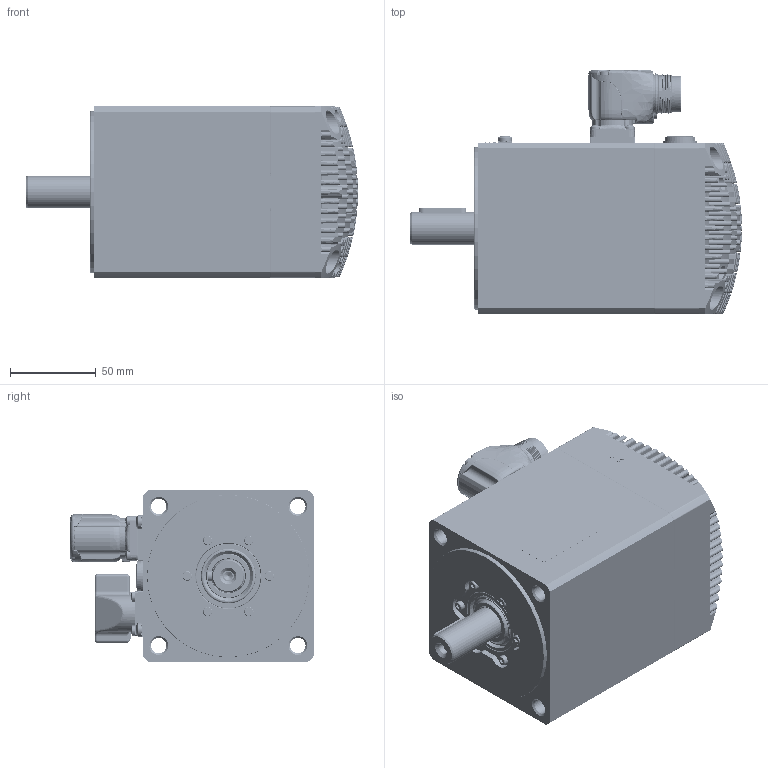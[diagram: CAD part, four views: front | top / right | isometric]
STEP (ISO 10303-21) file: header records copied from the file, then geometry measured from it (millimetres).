
FILE_DESCRIPTION((''),'2;1');
FILE_NAME('32190015650_ASM','2022-04-13T09:31:02',('gabrielec'),(''),'CREO PARAMETRIC BY PTC INC, 2021304','CREO PARAMETRIC BY PTC INC, 2021304','');
FILE_SCHEMA(('AP242_MANAGED_MODEL_BASED_3D_ENGINEERING_MIM_LF { 1 0 10303 442 1 1 4 }'));
Products named in the file (36): 52580N-0; 32149915564_ASM; 22320015067; 22320015067_ASM; 32050015011_ASM; 32060015506_ASM; 51941N-1; 32090015023_ASM; NRG_001; M3X16_GBT70-1; GB_T862_1; M4X8_GBT818_CU; 32159915174_ASM; 22160015160; MENTOR-1292_9013; CEMBRE_FD9; CEMBRE_2053M16N; 32150015177_ASM; UNI7687_M3X8_INOX; CORPO_3; 33200303857_AF4_ASM; 31500303857_AF4_ASM; 50941N-0; UNI7687_M3X6_INOX; UNI5931_M3X6_INOX; 22210015021; 32150015176_ASM; UNI5931_M4X16; LIP_SEAL_TW05; 22250015024; 22250015127; 43500000229; 43500000050; PHOENIX_1605512; L_6X6-28_UNI6604; 32190015650_ASM
Assembly tree (63 placements, depth 7):
  32190015650_ASM
    32159915174_ASM
      32149915564_ASM
        52580N-0
      32090015023_ASM
        32060015506_ASM
          32050015011_ASM
            22320015067_ASM
              22320015067
        51941N-1
      NRG_001  x6
      M3X16_GBT70-1  x6
      GB_T862_1  x2
      M4X8_GBT818_CU  x2
    32150015177_ASM
      22160015160
      MENTOR-1292_9013  x8
      CEMBRE_FD9
      CEMBRE_2053M16N
    UNI7687_M3X8_INOX  x4
    31500303857_AF4_ASM
      33200303857_AF4_ASM
        CORPO_3
    50941N-0  x2
    UNI7687_M3X6_INOX  x3
    UNI5931_M3X6_INOX
    32150015176_ASM
      22210015021
    UNI5931_M4X16  x4
    LIP_SEAL_TW05
    22250015024
    22250015127
    43500000229
    43500000050
    PHOENIX_1605512
    L_6X6-28_UNI6604
Bounding box: 194 x 142.41 x 100.8 mm (x, y, z)
Volume: 574695 mm3; surface area: 277854.6 mm2
Topology: 73 solids, 99 shells, 4358 faces, 10949 edges, 6928 vertices
Faces by surface type: plane 1465, cylinder 1027, cone 651, bspline 596, torus 354, sphere 243, revolution 11, extrusion 11
Entity records: 187728 total; most frequent: CARTESIAN_POINT 66363, ORIENTED_EDGE 19206, DIRECTION 17266, PRESENTATION_STYLE_ASSIGNMENT 9859, STYLED_ITEM 9684, EDGE_CURVE 9656, CURVE_STYLE 9612, AXIS2_PLACEMENT_3D 6736
